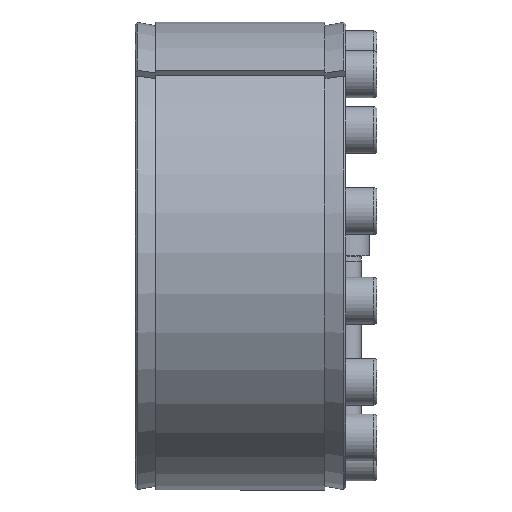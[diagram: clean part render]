
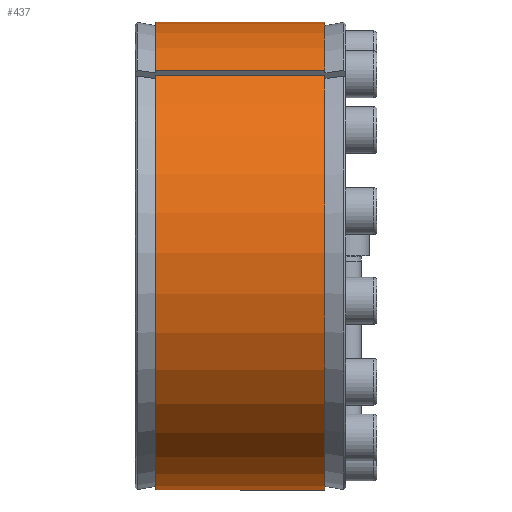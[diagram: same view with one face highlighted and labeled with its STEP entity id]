
A CAD part, left-side view. The second image highlights one B-rep face of the part: STEP entity #437.
In plain terms, the highlighted cylindrical face has radius 90 mm (diameter 180 mm), a partial arc.
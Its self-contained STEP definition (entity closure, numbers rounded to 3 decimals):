
#437 = ADVANCED_FACE( '', ( #786 ), #787, .T. );
#786 = FACE_OUTER_BOUND( '', #1108, .T. );
#787 = CYLINDRICAL_SURFACE( '', #1109, 90. );
#1108 = EDGE_LOOP( '', ( #1595, #1596, #1597, #1598 ) );
#1109 = AXIS2_PLACEMENT_3D( '', #1599, #1600, #1601 );
#1595 = ORIENTED_EDGE( '', *, *, #2030, .T. );
#1596 = ORIENTED_EDGE( '', *, *, #1995, .T. );
#1597 = ORIENTED_EDGE( '', *, *, #2052, .F. );
#1598 = ORIENTED_EDGE( '', *, *, #2130, .T. );
#1599 = CARTESIAN_POINT( '', ( 0., -60., 0. ) );
#1600 = DIRECTION( '', ( 0., 1., 0. ) );
#1601 = DIRECTION( '', ( 0., 0., -1. ) );
#1995 = EDGE_CURVE( '', #2234, #2232, #2235, .T. );
#2030 = EDGE_CURVE( '', #2298, #2234, #2299, .T. );
#2052 = EDGE_CURVE( '', #2338, #2232, #2339, .T. );
#2130 = EDGE_CURVE( '', #2338, #2298, #2481, .F. );
#2232 = VERTEX_POINT( '', #2557 );
#2234 = VERTEX_POINT( '', #2560 );
#2235 = LINE( '', #2561, #2562 );
#2298 = VERTEX_POINT( '', #2650 );
#2299 = CIRCLE( '', #2651, 90. );
#2338 = VERTEX_POINT( '', #2698 );
#2339 = CIRCLE( '', #2699, 90. );
#2481 = LINE( '', #2864, #2865 );
#2557 = CARTESIAN_POINT( '', ( -54.735, 8., 71.443 ) );
#2560 = CARTESIAN_POINT( '', ( -54.735, 73., 71.443 ) );
#2561 = CARTESIAN_POINT( '', ( -54.735, -60., 71.443 ) );
#2562 = VECTOR( '', #2880, 1000. );
#2650 = CARTESIAN_POINT( '', ( -57.472, 73., 69.26 ) );
#2651 = AXIS2_PLACEMENT_3D( '', #2954, #2955, #2956 );
#2698 = CARTESIAN_POINT( '', ( -57.472, 8., 69.26 ) );
#2699 = AXIS2_PLACEMENT_3D( '', #3010, #3011, #3012 );
#2864 = CARTESIAN_POINT( '', ( -57.472, -60., 69.26 ) );
#2865 = VECTOR( '', #3213, 1000. );
#2880 = DIRECTION( '', ( 0., -1., 0. ) );
#2954 = CARTESIAN_POINT( '', ( 0., 73., 0. ) );
#2955 = DIRECTION( '', ( 0., -1., 0. ) );
#2956 = DIRECTION( '', ( 0., 0., -1. ) );
#3010 = CARTESIAN_POINT( '', ( 0., 8., 0. ) );
#3011 = DIRECTION( '', ( 0., -1., 0. ) );
#3012 = DIRECTION( '', ( 0., 0., -1. ) );
#3213 = DIRECTION( '', ( 0., -1., 0. ) );
